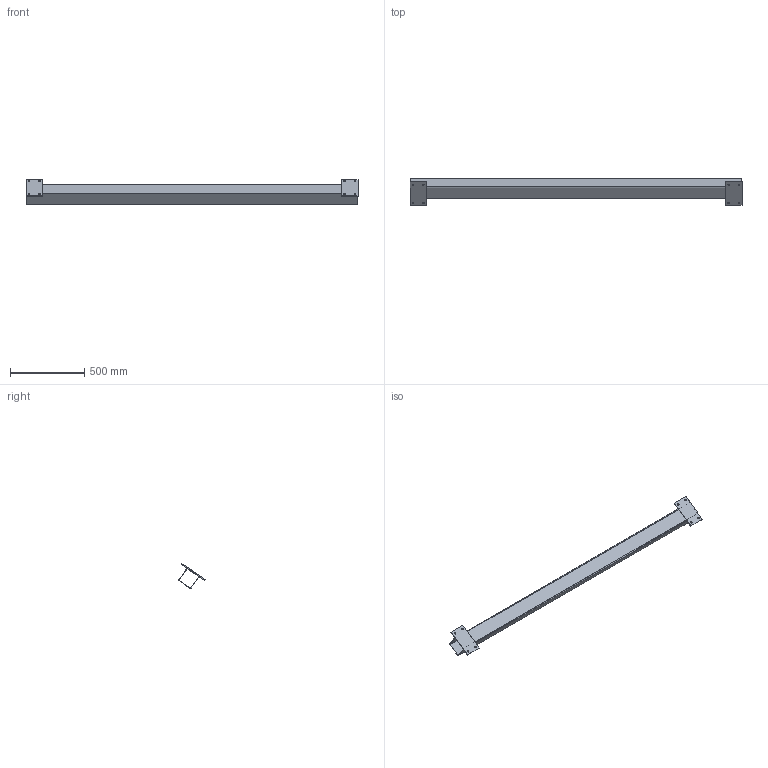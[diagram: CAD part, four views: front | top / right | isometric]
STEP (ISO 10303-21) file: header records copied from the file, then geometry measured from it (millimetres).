
FILE_DESCRIPTION(/* description */ (''),/* implementation_level */ '2;1');
FILE_NAME(/* name */ '2020TOMO-TELAIO-ASSY.00_v12-Part_05.stp',/* time_stamp */ '2022-05-16T13:32:28+02:00',/* author */ (''),/* organization */ (''),/* preprocessor_version */ 'ST-DEVELOPER v18.102',/* originating_system */ 'SIEMENS PLM Software NX 2000',/* authorisation */ '');
FILE_SCHEMA (('AUTOMOTIVE_DESIGN { 1 0 10303 214 3 1 1 1 }'));
Length unit declared in the file: millimetre
Products named in the file (1): turc3144724Fyy5h
Bounding box: 2230 x 176.62 x 166.8 mm (x, y, z)
Volume: 2737103.2 mm3; surface area: 1779998.1 mm2
Topology: 3 solids, 3 shells, 38 faces, 100 edges, 68 vertices
Faces by surface type: plane 22, cylinder 16
Full cylindrical faces by diameter (mm): 12 x8
Entity records: 1190 total; most frequent: DIRECTION 198, CARTESIAN_POINT 191, ORIENTED_EDGE 176, EDGE_CURVE 88, AXIS2_PLACEMENT_3D 71, EDGE_LOOP 64, VERTEX_POINT 64, LINE 56
